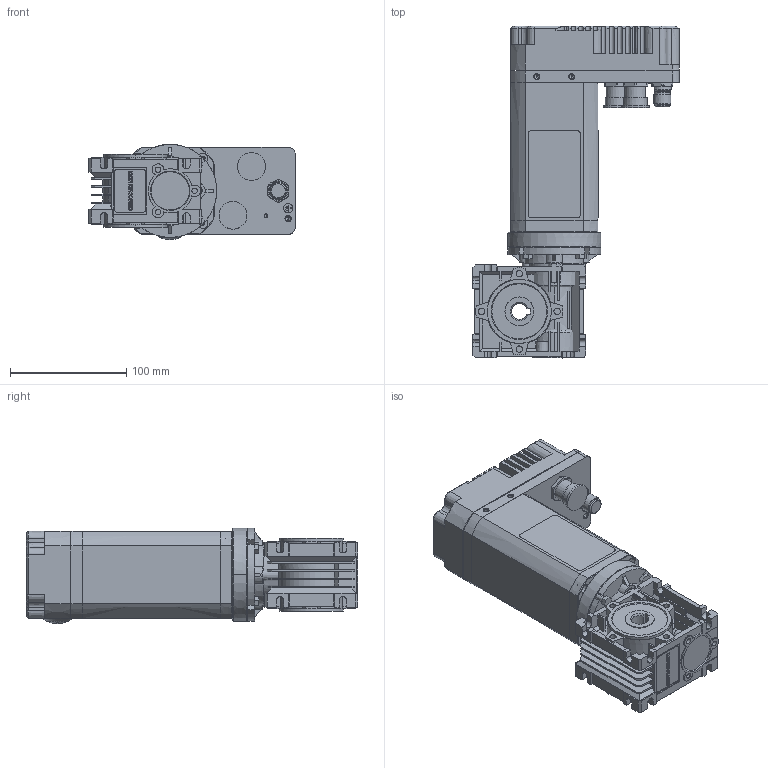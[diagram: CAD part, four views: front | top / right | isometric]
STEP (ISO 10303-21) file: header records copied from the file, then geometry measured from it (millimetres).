
FILE_DESCRIPTION((''),'2;1');
FILE_NAME('PRT0003','2018-07-10T',('alecma1'),('CROUZET-AUTOMATISMES'),'CREO PARAMETRIC BY PTC INC, 2017170','CREO PARAMETRIC BY PTC INC, 2017170','');
FILE_SCHEMA(('AP203_CONFIGURATION_CONTROLLED_3D_DESIGN_OF_MECHANICAL_PARTS_AND_ASSEMBLIES_MIM_LF { 1 0 10303 403 2 1 2 }'));
Products named in the file (1): PRT0003
Bounding box: 177.5 x 285.6 x 82 mm (x, y, z)
Surface area: 213893 mm2 (no closed solid volume)
Topology: 0 solids, 0 shells, 1241 faces, 6930 edges, 6913 vertices
Faces by surface type: bspline 1235, sphere 4, torus 2
Entity records: 132672 total; most frequent: CARTESIAN_POINT 59558, DIRECTION 10441, TRIMMED_CURVE 9312, VECTOR 8220, LINE 8220, DEFINITIONAL_REPRESENTATION 6904, PCURVE 6904, COMPOSITE_CURVE_SEGMENT 6904
